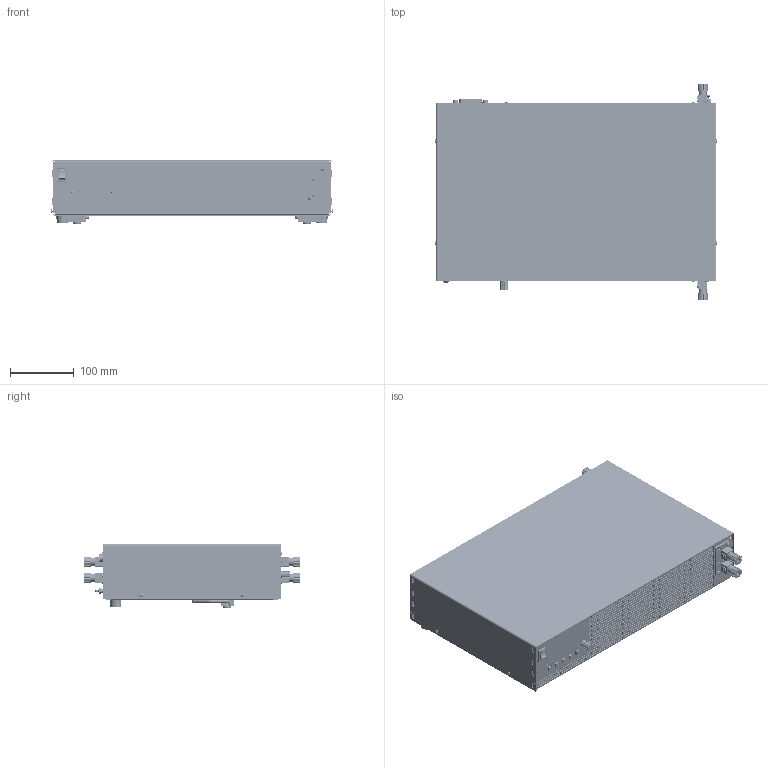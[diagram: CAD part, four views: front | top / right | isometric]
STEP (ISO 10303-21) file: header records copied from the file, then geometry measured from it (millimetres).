
FILE_DESCRIPTION(('STEP AP214'),'1');
FILE_NAME('PLA_M12_BPK4_30L_BPK4_30L_3D_02.step','2024-08-19T14:00:53',(' '),(' '),'Spatial InterOp 3D',' ',' ');
FILE_SCHEMA(('AUTOMOTIVE_DESIGN { 1 0 10303 214 1 1 1 1 }'));
Length unit declared in the file: millimetre
Products named in the file (7): PLA_M12_BPK4_30L_BPK4_30L_3D_02; *U210; *U211; *U212; *U213; *U214; AutoCreatedBlock_1C1
Assembly tree (10 placements, depth 2):
  PLA_M12_BPK4_30L_BPK4_30L_3D_02
    *U210  x2
    *U211
    *U212  x2
    *U213  x2
    *U214  x2
    AutoCreatedBlock_1C1
Bounding box: 444.06 x 340.5 x 100.18 mm (x, y, z)
Volume: 10145961.3 mm3; surface area: 1145557.7 mm2
Topology: 95 solids, 96 shells, 8255 faces, 21811 edges, 13877 vertices
Faces by surface type: plane 4006, cone 2492, cylinder 1501, sphere 96, torus 88, bspline 72
Entity records: 321899 total; most frequent: CARTESIAN_POINT 48169, DIRECTION 43542, ORIENTED_EDGE 42402, EDGE_CURVE 21201, LINE 15024, VECTOR 15024, AXIS2_PLACEMENT_3D 14259, VERTEX_POINT 13256
